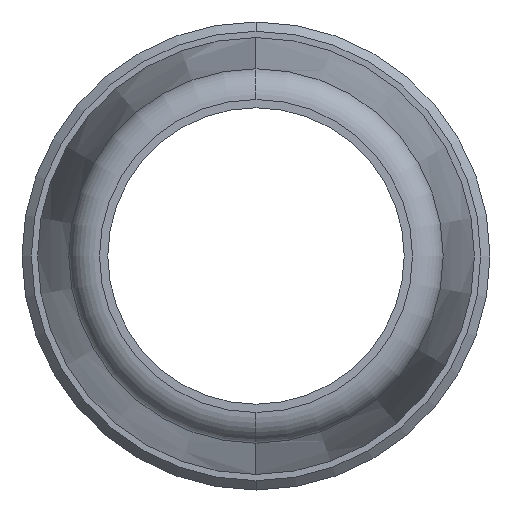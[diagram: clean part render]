
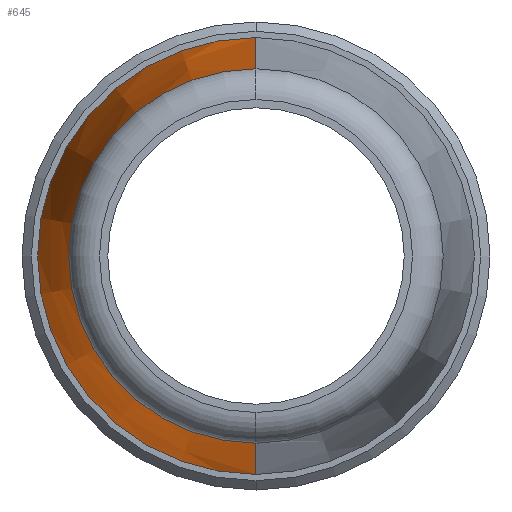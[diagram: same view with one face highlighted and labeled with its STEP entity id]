
A CAD part, left-side view. The second image highlights one B-rep face of the part: STEP entity #645.
In plain terms, the highlighted conical face has half-angle 7.425 degrees and reference radius 6 mm.
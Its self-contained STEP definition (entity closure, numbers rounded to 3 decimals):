
#29 = EDGE_CURVE ( 'NONE', #791, #406, #1025, .T. ) ;
#37 = AXIS2_PLACEMENT_3D ( 'NONE', #425, #1002, #505 ) ;
#43 = CARTESIAN_POINT ( 'NONE',  ( -1205.721, -1791.322, 6. ) ) ;
#71 = VERTEX_POINT ( 'NONE', #1063 ) ;
#131 = CARTESIAN_POINT ( 'NONE',  ( -1205.721, -1791.322, 0. ) ) ;
#137 = DIRECTION ( 'NONE',  ( 0.992, 0., 0.129 ) ) ;
#166 = EDGE_CURVE ( 'NONE', #970, #71, #483, .T. ) ;
#179 = DIRECTION ( 'NONE',  ( 1., 0., 0. ) ) ;
#189 = ORIENTED_EDGE ( 'NONE', *, *, #29, .T. ) ;
#211 = AXIS2_PLACEMENT_3D ( 'NONE', #925, #433, #1010 ) ;
#234 = DIRECTION ( 'NONE',  ( 0., 0., -1. ) ) ;
#267 = VECTOR ( 'NONE', #982, 1000. ) ;
#371 = VECTOR ( 'NONE', #137, 1000. ) ;
#385 = EDGE_CURVE ( 'NONE', #970, #791, #630, .T. ) ;
#406 = VERTEX_POINT ( 'NONE', #834 ) ;
#407 = ORIENTED_EDGE ( 'NONE', *, *, #449, .F. ) ;
#425 = CARTESIAN_POINT ( 'NONE',  ( -1205.721, -1791.322, 0. ) ) ;
#433 = DIRECTION ( 'NONE',  ( 1., 0., 0. ) ) ;
#449 = EDGE_CURVE ( 'NONE', #71, #406, #581, .T. ) ;
#483 = LINE ( 'NONE', #635, #267 ) ;
#505 = DIRECTION ( 'NONE',  ( 0., 0., -1. ) ) ;
#523 = CARTESIAN_POINT ( 'NONE',  ( -1205.721, -1791.322, -6. ) ) ;
#565 = CONICAL_SURFACE ( 'NONE', #1038, 6., 0.13 ) ;
#581 = CIRCLE ( 'NONE', #211, 7. ) ;
#620 = ORIENTED_EDGE ( 'NONE', *, *, #166, .F. ) ;
#630 = CIRCLE ( 'NONE', #37, 6. ) ;
#635 = CARTESIAN_POINT ( 'NONE',  ( -1205.721, -1791.322, -6. ) ) ;
#645 = ADVANCED_FACE ( 'NONE', ( #1029 ), #565, .T. ) ;
#791 = VERTEX_POINT ( 'NONE', #43 ) ;
#834 = CARTESIAN_POINT ( 'NONE',  ( -1198.047, -1791.322, 7. ) ) ;
#837 = EDGE_LOOP ( 'NONE', ( #1034, #189, #407, #620 ) ) ;
#925 = CARTESIAN_POINT ( 'NONE',  ( -1198.047, -1791.322, 0. ) ) ;
#970 = VERTEX_POINT ( 'NONE', #523 ) ;
#982 = DIRECTION ( 'NONE',  ( 0.992, 0., -0.129 ) ) ;
#1002 = DIRECTION ( 'NONE',  ( 1., 0., 0. ) ) ;
#1010 = DIRECTION ( 'NONE',  ( 0., 0., -1. ) ) ;
#1025 = LINE ( 'NONE', #1030, #371 ) ;
#1029 = FACE_OUTER_BOUND ( 'NONE', #837, .T. ) ;
#1030 = CARTESIAN_POINT ( 'NONE',  ( -1205.721, -1791.322, 6. ) ) ;
#1034 = ORIENTED_EDGE ( 'NONE', *, *, #385, .T. ) ;
#1038 = AXIS2_PLACEMENT_3D ( 'NONE', #131, #179, #234 ) ;
#1063 = CARTESIAN_POINT ( 'NONE',  ( -1198.047, -1791.322, -7. ) ) ;
